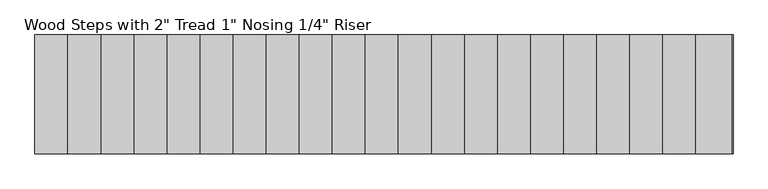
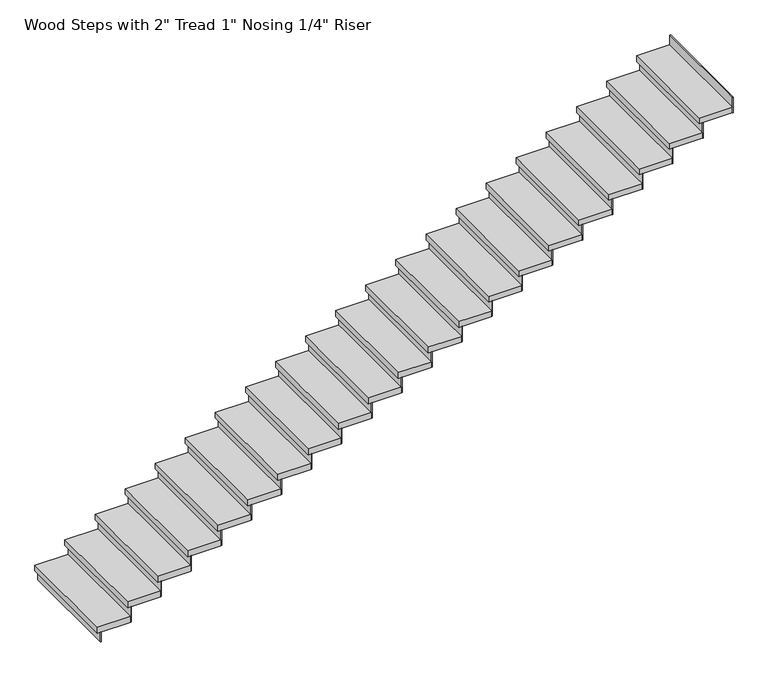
"""IFC4 building model written with IfcOpenShell, lengths in millimetres: stair flight geometry."""

from ifc_helpers import new_model, si_unit, frame, origin, origin_with_axes, place, context, project, spatial, polyline, outline, extrude, source, transform, mapped, element, save


def stair_flight_f67c9514(model_context):
    return source(origin(), model_context, "Body", "SweptSolid", [
        extrude(outline(polyline([(12341.8381748, 23464.6076385), (12335.4881748, 23464.6076385), (12335.4881748, 24379.0076385), (12341.8381748, 24379.0076385), (12341.8381748, 23464.6076385)])), origin_with_axes(), (0.0, 0.0, 1.0), 87.7454545),
        extrude(outline(polyline([(12589.4881748, 24379.0076385), (12589.4881748, 23464.6076385), (12310.0881748, 23464.6076385), (12310.0881748, 24379.0076385), (12589.4881748, 24379.0076385)])), frame((0.0, 0.0, 87.7454545), z_axis=(0.0, 0.0, 1.0), x_axis=(1.0, 0.0, 0.0)), (0.0, 0.0, 1.0), 50.8),
        extrude(outline(polyline([(12595.8381748, 23464.6076385), (12589.4881748, 23464.6076385), (12589.4881748, 24379.0076385), (12595.8381748, 24379.0076385), (12595.8381748, 23464.6076385)])), frame((0.0, 0.0, 87.7454545), z_axis=(0.0, 0.0, 1.0), x_axis=(1.0, 0.0, 0.0)), (0.0, 0.0, 1.0), 138.5454545),
        extrude(outline(polyline([(12843.4881748, 24379.0076385), (12843.4881748, 23464.6076385), (12564.0881748, 23464.6076385), (12564.0881748, 24379.0076385), (12843.4881748, 24379.0076385)])), frame((0.0, 0.0, 226.2909091), z_axis=(0.0, 0.0, 1.0), x_axis=(1.0, 0.0, 0.0)), (0.0, 0.0, 1.0), 50.8),
        extrude(outline(polyline([(12849.8381748, 23464.6076385), (12843.4881748, 23464.6076385), (12843.4881748, 24379.0076385), (12849.8381748, 24379.0076385), (12849.8381748, 23464.6076385)])), frame((0.0, 0.0, 226.2909091), z_axis=(0.0, 0.0, 1.0), x_axis=(1.0, 0.0, 0.0)), (0.0, 0.0, 1.0), 138.5454545),
        extrude(outline(polyline([(13097.4881748, 24379.0076385), (13097.4881748, 23464.6076385), (12818.0881748, 23464.6076385), (12818.0881748, 24379.0076385), (13097.4881748, 24379.0076385)])), frame((0.0, 0.0, 364.8363636), z_axis=(0.0, 0.0, 1.0), x_axis=(1.0, 0.0, 0.0)), (0.0, 0.0, 1.0), 50.8),
        extrude(outline(polyline([(13103.8381748, 23464.6076385), (13097.4881748, 23464.6076385), (13097.4881748, 24379.0076385), (13103.8381748, 24379.0076385), (13103.8381748, 23464.6076385)])), frame((0.0, 0.0, 364.8363636), z_axis=(0.0, 0.0, 1.0), x_axis=(1.0, 0.0, 0.0)), (0.0, 0.0, 1.0), 138.5454545),
        extrude(outline(polyline([(13351.4881748, 24379.0076385), (13351.4881748, 23464.6076385), (13072.0881748, 23464.6076385), (13072.0881748, 24379.0076385), (13351.4881748, 24379.0076385)])), frame((0.0, 0.0, 503.3818182), z_axis=(0.0, 0.0, 1.0), x_axis=(1.0, 0.0, 0.0)), (0.0, 0.0, 1.0), 50.8),
        extrude(outline(polyline([(13357.8381748, 23464.6076385), (13351.4881748, 23464.6076385), (13351.4881748, 24379.0076385), (13357.8381748, 24379.0076385), (13357.8381748, 23464.6076385)])), frame((0.0, 0.0, 503.3818182), z_axis=(0.0, 0.0, 1.0), x_axis=(1.0, 0.0, 0.0)), (0.0, 0.0, 1.0), 138.5454545),
        extrude(outline(polyline([(13605.4881748, 24379.0076385), (13605.4881748, 23464.6076385), (13326.0881748, 23464.6076385), (13326.0881748, 24379.0076385), (13605.4881748, 24379.0076385)])), frame((0.0, 0.0, 641.9272727), z_axis=(0.0, 0.0, 1.0), x_axis=(1.0, 0.0, 0.0)), (0.0, 0.0, 1.0), 50.8),
        extrude(outline(polyline([(13611.8381748, 23464.6076385), (13605.4881748, 23464.6076385), (13605.4881748, 24379.0076385), (13611.8381748, 24379.0076385), (13611.8381748, 23464.6076385)])), frame((0.0, 0.0, 641.9272727), z_axis=(0.0, 0.0, 1.0), x_axis=(1.0, 0.0, 0.0)), (0.0, 0.0, 1.0), 138.5454545),
        extrude(outline(polyline([(13859.4881748, 24379.0076385), (13859.4881748, 23464.6076385), (13580.0881748, 23464.6076385), (13580.0881748, 24379.0076385), (13859.4881748, 24379.0076385)])), frame((0.0, 0.0, 780.4727273), z_axis=(0.0, 0.0, 1.0), x_axis=(1.0, 0.0, 0.0)), (0.0, 0.0, 1.0), 50.8),
        extrude(outline(polyline([(13865.8381748, 23464.6076385), (13859.4881748, 23464.6076385), (13859.4881748, 24379.0076385), (13865.8381748, 24379.0076385), (13865.8381748, 23464.6076385)])), frame((0.0, 0.0, 780.4727273), z_axis=(0.0, 0.0, 1.0), x_axis=(1.0, 0.0, 0.0)), (0.0, 0.0, 1.0), 138.5454545),
        extrude(outline(polyline([(14113.4881748, 24379.0076385), (14113.4881748, 23464.6076385), (13834.0881748, 23464.6076385), (13834.0881748, 24379.0076385), (14113.4881748, 24379.0076385)])), frame((0.0, 0.0, 919.0181818), z_axis=(0.0, 0.0, 1.0), x_axis=(1.0, 0.0, 0.0)), (0.0, 0.0, 1.0), 50.8),
        extrude(outline(polyline([(14119.8381748, 23464.6076385), (14113.4881748, 23464.6076385), (14113.4881748, 24379.0076385), (14119.8381748, 24379.0076385), (14119.8381748, 23464.6076385)])), frame((0.0, 0.0, 919.0181818), z_axis=(0.0, 0.0, 1.0), x_axis=(1.0, 0.0, 0.0)), (0.0, 0.0, 1.0), 138.5454545),
        extrude(outline(polyline([(14367.4881748, 24379.0076385), (14367.4881748, 23464.6076385), (14088.0881748, 23464.6076385), (14088.0881748, 24379.0076385), (14367.4881748, 24379.0076385)])), frame((0.0, 0.0, 1057.5636364), z_axis=(0.0, 0.0, 1.0), x_axis=(1.0, 0.0, 0.0)), (0.0, 0.0, 1.0), 50.8),
        extrude(outline(polyline([(14373.8381748, 23464.6076385), (14367.4881748, 23464.6076385), (14367.4881748, 24379.0076385), (14373.8381748, 24379.0076385), (14373.8381748, 23464.6076385)])), frame((0.0, 0.0, 1057.5636364), z_axis=(0.0, 0.0, 1.0), x_axis=(1.0, 0.0, 0.0)), (0.0, 0.0, 1.0), 138.5454545),
        extrude(outline(polyline([(14621.4881748, 24379.0076385), (14621.4881748, 23464.6076385), (14342.0881748, 23464.6076385), (14342.0881748, 24379.0076385), (14621.4881748, 24379.0076385)])), frame((0.0, 0.0, 1196.1090909), z_axis=(0.0, 0.0, 1.0), x_axis=(1.0, 0.0, 0.0)), (0.0, 0.0, 1.0), 50.8),
        extrude(outline(polyline([(14627.8381748, 23464.6076385), (14621.4881748, 23464.6076385), (14621.4881748, 24379.0076385), (14627.8381748, 24379.0076385), (14627.8381748, 23464.6076385)])), frame((0.0, 0.0, 1196.1090909), z_axis=(0.0, 0.0, 1.0), x_axis=(1.0, 0.0, 0.0)), (0.0, 0.0, 1.0), 138.5454545),
        extrude(outline(polyline([(14875.4881748, 24379.0076385), (14875.4881748, 23464.6076385), (14596.0881748, 23464.6076385), (14596.0881748, 24379.0076385), (14875.4881748, 24379.0076385)])), frame((0.0, 0.0, 1334.6545455), z_axis=(0.0, 0.0, 1.0), x_axis=(1.0, 0.0, 0.0)), (0.0, 0.0, 1.0), 50.8),
        extrude(outline(polyline([(14881.8381748, 23464.6076385), (14875.4881748, 23464.6076385), (14875.4881748, 24379.0076385), (14881.8381748, 24379.0076385), (14881.8381748, 23464.6076385)])), frame((0.0, 0.0, 1334.6545455), z_axis=(0.0, 0.0, 1.0), x_axis=(1.0, 0.0, 0.0)), (0.0, 0.0, 1.0), 138.5454545),
        extrude(outline(polyline([(15129.4881748, 24379.0076385), (15129.4881748, 23464.6076385), (14850.0881748, 23464.6076385), (14850.0881748, 24379.0076385), (15129.4881748, 24379.0076385)])), frame((0.0, 0.0, 1473.2), z_axis=(0.0, 0.0, 1.0), x_axis=(1.0, 0.0, 0.0)), (0.0, 0.0, 1.0), 50.8),
        extrude(outline(polyline([(15135.8381748, 23464.6076385), (15129.4881748, 23464.6076385), (15129.4881748, 24379.0076385), (15135.8381748, 24379.0076385), (15135.8381748, 23464.6076385)])), frame((0.0, 0.0, 1473.2), z_axis=(0.0, 0.0, 1.0), x_axis=(1.0, 0.0, 0.0)), (0.0, 0.0, 1.0), 138.5454545),
        extrude(outline(polyline([(15383.4881748, 24379.0076385), (15383.4881748, 23464.6076385), (15104.0881748, 23464.6076385), (15104.0881748, 24379.0076385), (15383.4881748, 24379.0076385)])), frame((0.0, 0.0, 1611.7454545), z_axis=(0.0, 0.0, 1.0), x_axis=(1.0, 0.0, 0.0)), (0.0, 0.0, 1.0), 50.8),
        extrude(outline(polyline([(15389.8381748, 23464.6076385), (15383.4881748, 23464.6076385), (15383.4881748, 24379.0076385), (15389.8381748, 24379.0076385), (15389.8381748, 23464.6076385)])), frame((0.0, 0.0, 1611.7454545), z_axis=(0.0, 0.0, 1.0), x_axis=(1.0, 0.0, 0.0)), (0.0, 0.0, 1.0), 138.5454545),
        extrude(outline(polyline([(15637.4881748, 24379.0076385), (15637.4881748, 23464.6076385), (15358.0881748, 23464.6076385), (15358.0881748, 24379.0076385), (15637.4881748, 24379.0076385)])), frame((0.0, 0.0, 1750.2909091), z_axis=(0.0, 0.0, 1.0), x_axis=(1.0, 0.0, 0.0)), (0.0, 0.0, 1.0), 50.8),
        extrude(outline(polyline([(15643.8381748, 23464.6076385), (15637.4881748, 23464.6076385), (15637.4881748, 24379.0076385), (15643.8381748, 24379.0076385), (15643.8381748, 23464.6076385)])), frame((0.0, 0.0, 1750.2909091), z_axis=(0.0, 0.0, 1.0), x_axis=(1.0, 0.0, 0.0)), (0.0, 0.0, 1.0), 138.5454545),
        extrude(outline(polyline([(15891.4881748, 24379.0076385), (15891.4881748, 23464.6076385), (15612.0881748, 23464.6076385), (15612.0881748, 24379.0076385), (15891.4881748, 24379.0076385)])), frame((0.0, 0.0, 1888.8363636), z_axis=(0.0, 0.0, 1.0), x_axis=(1.0, 0.0, 0.0)), (0.0, 0.0, 1.0), 50.8),
        extrude(outline(polyline([(15897.8381748, 23464.6076385), (15891.4881748, 23464.6076385), (15891.4881748, 24379.0076385), (15897.8381748, 24379.0076385), (15897.8381748, 23464.6076385)])), frame((0.0, 0.0, 1888.8363636), z_axis=(0.0, 0.0, 1.0), x_axis=(1.0, 0.0, 0.0)), (0.0, 0.0, 1.0), 138.5454545),
        extrude(outline(polyline([(16145.4881748, 24379.0076385), (16145.4881748, 23464.6076385), (15866.0881748, 23464.6076385), (15866.0881748, 24379.0076385), (16145.4881748, 24379.0076385)])), frame((0.0, 0.0, 2027.3818182), z_axis=(0.0, 0.0, 1.0), x_axis=(1.0, 0.0, 0.0)), (0.0, 0.0, 1.0), 50.8),
        extrude(outline(polyline([(16151.8381748, 23464.6076385), (16145.4881748, 23464.6076385), (16145.4881748, 24379.0076385), (16151.8381748, 24379.0076385), (16151.8381748, 23464.6076385)])), frame((0.0, 0.0, 2027.3818182), z_axis=(0.0, 0.0, 1.0), x_axis=(1.0, 0.0, 0.0)), (0.0, 0.0, 1.0), 138.5454545),
        extrude(outline(polyline([(16399.4881748, 24379.0076385), (16399.4881748, 23464.6076385), (16120.0881748, 23464.6076385), (16120.0881748, 24379.0076385), (16399.4881748, 24379.0076385)])), frame((0.0, 0.0, 2165.9272727), z_axis=(0.0, 0.0, 1.0), x_axis=(1.0, 0.0, 0.0)), (0.0, 0.0, 1.0), 50.8),
        extrude(outline(polyline([(16405.8381748, 23464.6076385), (16399.4881748, 23464.6076385), (16399.4881748, 24379.0076385), (16405.8381748, 24379.0076385), (16405.8381748, 23464.6076385)])), frame((0.0, 0.0, 2165.9272727), z_axis=(0.0, 0.0, 1.0), x_axis=(1.0, 0.0, 0.0)), (0.0, 0.0, 1.0), 138.5454545),
        extrude(outline(polyline([(16653.4881748, 24379.0076385), (16653.4881748, 23464.6076385), (16374.0881748, 23464.6076385), (16374.0881748, 24379.0076385), (16653.4881748, 24379.0076385)])), frame((0.0, 0.0, 2304.4727273), z_axis=(0.0, 0.0, 1.0), x_axis=(1.0, 0.0, 0.0)), (0.0, 0.0, 1.0), 50.8),
        extrude(outline(polyline([(16659.8381748, 23464.6076385), (16653.4881748, 23464.6076385), (16653.4881748, 24379.0076385), (16659.8381748, 24379.0076385), (16659.8381748, 23464.6076385)])), frame((0.0, 0.0, 2304.4727273), z_axis=(0.0, 0.0, 1.0), x_axis=(1.0, 0.0, 0.0)), (0.0, 0.0, 1.0), 138.5454545),
        extrude(outline(polyline([(16907.4881748, 24379.0076385), (16907.4881748, 23464.6076385), (16628.0881748, 23464.6076385), (16628.0881748, 24379.0076385), (16907.4881748, 24379.0076385)])), frame((0.0, 0.0, 2443.0181818), z_axis=(0.0, 0.0, 1.0), x_axis=(1.0, 0.0, 0.0)), (0.0, 0.0, 1.0), 50.8),
        extrude(outline(polyline([(16913.8381748, 23464.6076385), (16907.4881748, 23464.6076385), (16907.4881748, 24379.0076385), (16913.8381748, 24379.0076385), (16913.8381748, 23464.6076385)])), frame((0.0, 0.0, 2443.0181818), z_axis=(0.0, 0.0, 1.0), x_axis=(1.0, 0.0, 0.0)), (0.0, 0.0, 1.0), 138.5454545),
        extrude(outline(polyline([(17161.4881748, 24379.0076385), (17161.4881748, 23464.6076385), (16882.0881748, 23464.6076385), (16882.0881748, 24379.0076385), (17161.4881748, 24379.0076385)])), frame((0.0, 0.0, 2581.5636364), z_axis=(0.0, 0.0, 1.0), x_axis=(1.0, 0.0, 0.0)), (0.0, 0.0, 1.0), 50.8),
        extrude(outline(polyline([(17167.8381748, 23464.6076385), (17161.4881748, 23464.6076385), (17161.4881748, 24379.0076385), (17167.8381748, 24379.0076385), (17167.8381748, 23464.6076385)])), frame((0.0, 0.0, 2581.5636364), z_axis=(0.0, 0.0, 1.0), x_axis=(1.0, 0.0, 0.0)), (0.0, 0.0, 1.0), 138.5454545),
        extrude(outline(polyline([(17415.4881748, 24379.0076385), (17415.4881748, 23464.6076385), (17136.0881748, 23464.6076385), (17136.0881748, 24379.0076385), (17415.4881748, 24379.0076385)])), frame((0.0, 0.0, 2720.1090909), z_axis=(0.0, 0.0, 1.0), x_axis=(1.0, 0.0, 0.0)), (0.0, 0.0, 1.0), 50.8),
        extrude(outline(polyline([(17421.8381748, 23464.6076385), (17415.4881748, 23464.6076385), (17415.4881748, 24379.0076385), (17421.8381748, 24379.0076385), (17421.8381748, 23464.6076385)])), frame((0.0, 0.0, 2720.1090909), z_axis=(0.0, 0.0, 1.0), x_axis=(1.0, 0.0, 0.0)), (0.0, 0.0, 1.0), 138.5454545),
        extrude(outline(polyline([(17675.8381748, 23464.6076385), (17669.4881748, 23464.6076385), (17669.4881748, 24379.0076385), (17675.8381748, 24379.0076385), (17675.8381748, 23464.6076385)])), frame((0.0, 0.0, 2858.6545455), z_axis=(0.0, 0.0, 1.0), x_axis=(1.0, 0.0, 0.0)), (0.0, 0.0, 1.0), 138.5454545),
        extrude(outline(polyline([(17669.4881748, 24379.0076385), (17669.4881748, 23464.6076385), (17390.0881748, 23464.6076385), (17390.0881748, 24379.0076385), (17669.4881748, 24379.0076385)])), frame((0.0, 0.0, 2858.6545455), z_axis=(0.0, 0.0, 1.0), x_axis=(1.0, 0.0, 0.0)), (0.0, 0.0, 1.0), 50.8),
    ])


if __name__ == "__main__":
    model = new_model("IFC4")
    model_context = context("Model", 3, world=origin())
    ifc_project = project(units=[si_unit("LENGTHUNIT", "METRE", prefix="MILLI")], contexts=[model_context])
    site = spatial("IfcSite", under=ifc_project)
    building = spatial("IfcBuilding", under=site)
    placement = place(None, origin())
    stair_flight_shape = stair_flight_f67c9514(model_context)
    element("IfcStairFlight", 1, ObjectType="Wood Steps with 2\" Tread 1\" Nosing 1/4\" Riser", at=placement, inside=building, context=model_context, shape_type="MappedRepresentation", body=[
        mapped(stair_flight_shape, transform((0.0, 0.0, 0.0), x_axis=(1.0, 0.0, 0.0), y_axis=(0.0, 1.0, 0.0), z_axis=(0.0, 0.0, 1.0))),
    ])
    save(model, "model.ifc")
